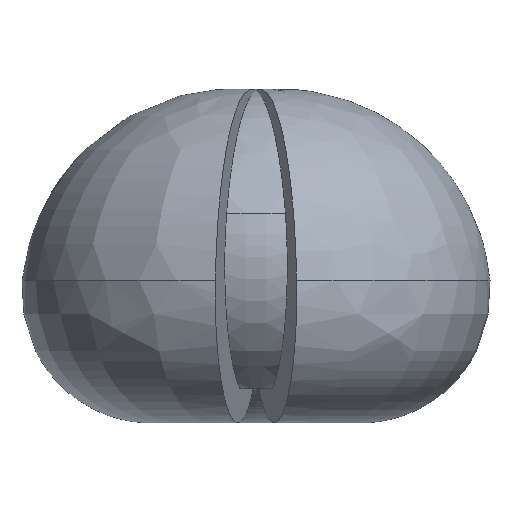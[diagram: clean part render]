
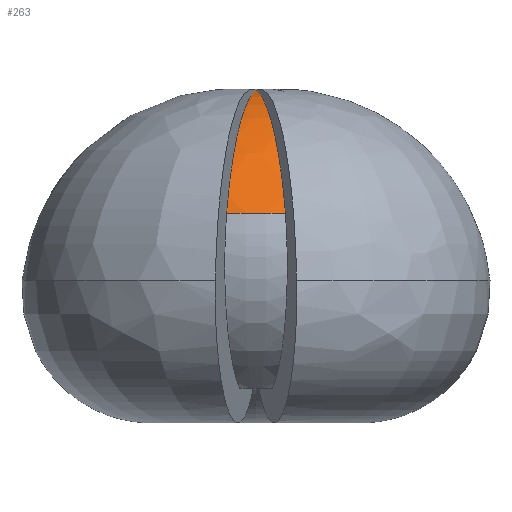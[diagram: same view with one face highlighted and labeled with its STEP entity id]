
A CAD part, left-side view. The second image highlights one B-rep face of the part: STEP entity #263.
In plain terms, the highlighted free-form (B-spline) face has degree [3, 3] with [7, 4] control points.
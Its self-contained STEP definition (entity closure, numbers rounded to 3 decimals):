
#23 = VERTEX_POINT ( 'NONE', #158 ) ;
#56 = CARTESIAN_POINT ( 'NONE',  ( -608.751, -35.416, 3814.844 ) ) ;
#57 = CARTESIAN_POINT ( 'NONE',  ( -1255.392, -221.359, 3530.053 ) ) ;
#73 = CARTESIAN_POINT ( 'NONE',  ( -165.599, -29.2, 3899.58 ) ) ;
#91 = CARTESIAN_POINT ( 'NONE',  ( -2538.082, -147.659, 2085.747 ) ) ;
#99 = EDGE_CURVE ( 'NONE', #981, #1583, #136, .T. ) ;
#136 = B_SPLINE_CURVE_WITH_KNOTS ( 'NONE', 3,
 ( #773, #73, #1271, #57, #908, #1506, #1392 ),
 .UNSPECIFIED., .F., .F.,
 ( 4, 1, 1, 1, 4 ),
 ( 0.605, 0.667, 0.767, 0.867, 1. ),
 .UNSPECIFIED. ) ;
#158 = CARTESIAN_POINT ( 'NONE',  ( -2486.8, 438.49, 2085.747 ) ) ;
#173 = CARTESIAN_POINT ( 'NONE',  ( -1255.392, -221.359, 3530.053 ) ) ;
#180 = CARTESIAN_POINT ( 'NONE',  ( -1255.392, 221.359, 3530.053 ) ) ;
#198 = AXIS2_PLACEMENT_3D ( 'NONE', #441, #203, #1291 ) ;
#202 = CARTESIAN_POINT ( 'NONE',  ( 0., 0., 3918.321 ) ) ;
#203 = DIRECTION ( 'NONE',  ( 0., 0., -1. ) ) ;
#232 = ORIENTED_EDGE ( 'NONE', *, *, #99, .F. ) ;
#263 = ADVANCED_FACE ( 'NONE', ( #1313 ), #387, .T. ) ;
#292 = CARTESIAN_POINT ( 'NONE',  ( -596.452, 105.171, 3814.844 ) ) ;
#314 = CARTESIAN_POINT ( 'NONE',  ( -2486.8, 438.49, 2085.747 ) ) ;
#325 = CARTESIAN_POINT ( 'NONE',  ( -2385.46, -138.78, 2420.611 ) ) ;
#387 =( BOUNDED_SURFACE ( )  B_SPLINE_SURFACE ( 3, 3, ( 
 ( #1548, #91, #1426, #1417 ),
 ( #933, #325, #1188, #573 ),
 ( #814, #824, #1304, #409 ),
 ( #173, #1035, #522, #180 ),
 ( #673, #56, #419, #292 ),
 ( #1529, #537, #545, #1391 ),
 ( #666, #787, #794, #1143 ) ),
 .UNSPECIFIED., .F., .F., .T. ) 
 B_SPLINE_SURFACE_WITH_KNOTS ( ( 4, 1, 1, 1, 4 ),
 ( 4, 4 ),
 ( 0.605, 0.739, 0.839, 0.939, 1. ),
 ( 0., 1. ),
 .UNSPECIFIED. ) 
 GEOMETRIC_REPRESENTATION_ITEM ( )  RATIONAL_B_SPLINE_SURFACE ( (
 ( 1., 0.99, 0.99, 1.),
 ( 1., 0.99, 0.99, 1.),
 ( 1., 0.99, 0.99, 1.),
 ( 1., 0.99, 0.99, 1.),
 ( 1., 0.99, 0.99, 1.),
 ( 1., 0.99, 0.99, 1.),
 ( 1., 0.99, 0.99, 1.) ) ) 
 REPRESENTATION_ITEM ( '' )  SURFACE ( )  );
#409 = CARTESIAN_POINT ( 'NONE',  ( -1974.263, 348.116, 2957.866 ) ) ;
#419 = CARTESIAN_POINT ( 'NONE',  ( -608.751, 35.416, 3814.844 ) ) ;
#441 = CARTESIAN_POINT ( 'NONE',  ( 0., 0., 2085.747 ) ) ;
#522 = CARTESIAN_POINT ( 'NONE',  ( -1281.28, 74.541, 3530.053 ) ) ;
#537 = CARTESIAN_POINT ( 'NONE',  ( -169.014, -9.833, 3899.58 ) ) ;
#544 = CARTESIAN_POINT ( 'NONE',  ( -165.599, 29.2, 3899.58 ) ) ;
#545 = CARTESIAN_POINT ( 'NONE',  ( -169.014, 9.833, 3899.58 ) ) ;
#573 = CARTESIAN_POINT ( 'NONE',  ( -2337.263, 412.122, 2420.611 ) ) ;
#666 = CARTESIAN_POINT ( 'NONE',  ( 0., 0., 3918.321 ) ) ;
#673 = CARTESIAN_POINT ( 'NONE',  ( -596.452, -105.171, 3814.844 ) ) ;
#748 = ORIENTED_EDGE ( 'NONE', *, *, #1254, .F. ) ;
#773 = CARTESIAN_POINT ( 'NONE',  ( 0., 0., 3918.321 ) ) ;
#787 = CARTESIAN_POINT ( 'NONE',  ( 0., 0., 3918.321 ) ) ;
#794 = CARTESIAN_POINT ( 'NONE',  ( 0., 0., 3918.321 ) ) ;
#814 = CARTESIAN_POINT ( 'NONE',  ( -1974.263, -348.116, 2957.866 ) ) ;
#824 = CARTESIAN_POINT ( 'NONE',  ( -2014.975, -117.226, 2957.866 ) ) ;
#886 = CIRCLE ( 'NONE', #198, 2525.163 ) ;
#908 = CARTESIAN_POINT ( 'NONE',  ( -1974.263, -348.116, 2957.866 ) ) ;
#933 = CARTESIAN_POINT ( 'NONE',  ( -2337.263, -412.122, 2420.611 ) ) ;
#981 = VERTEX_POINT ( 'NONE', #202 ) ;
#1034 = CARTESIAN_POINT ( 'NONE',  ( -1255.392, 221.359, 3530.053 ) ) ;
#1035 = CARTESIAN_POINT ( 'NONE',  ( -1281.28, -74.541, 3530.053 ) ) ;
#1105 = EDGE_LOOP ( 'NONE', ( #232, #1499, #748 ) ) ;
#1143 = CARTESIAN_POINT ( 'NONE',  ( 0., 0., 3918.321 ) ) ;
#1150 = CARTESIAN_POINT ( 'NONE',  ( -596.452, 105.171, 3814.844 ) ) ;
#1175 = CARTESIAN_POINT ( 'NONE',  ( -2337.263, 412.122, 2420.611 ) ) ;
#1188 = CARTESIAN_POINT ( 'NONE',  ( -2385.46, 138.78, 2420.611 ) ) ;
#1254 = EDGE_CURVE ( 'NONE', #1583, #23, #886, .T. ) ;
#1271 = CARTESIAN_POINT ( 'NONE',  ( -596.452, -105.171, 3814.844 ) ) ;
#1276 = CARTESIAN_POINT ( 'NONE',  ( 0., 0., 3918.321 ) ) ;
#1291 = DIRECTION ( 'NONE',  ( -1., 0., 0. ) ) ;
#1304 = CARTESIAN_POINT ( 'NONE',  ( -2014.975, 117.226, 2957.866 ) ) ;
#1313 = FACE_OUTER_BOUND ( 'NONE', #1105, .T. ) ;
#1343 = CARTESIAN_POINT ( 'NONE',  ( -2486.8, -438.49, 2085.747 ) ) ;
#1371 = EDGE_CURVE ( 'NONE', #981, #23, #1411, .T. ) ;
#1391 = CARTESIAN_POINT ( 'NONE',  ( -165.599, 29.2, 3899.58 ) ) ;
#1392 = CARTESIAN_POINT ( 'NONE',  ( -2486.8, -438.49, 2085.747 ) ) ;
#1411 = B_SPLINE_CURVE_WITH_KNOTS ( 'NONE', 3,
 ( #1276, #544, #1150, #1034, #1528, #1175, #314 ),
 .UNSPECIFIED., .F., .F.,
 ( 4, 1, 1, 1, 4 ),
 ( 0.605, 0.667, 0.767, 0.867, 1. ),
 .UNSPECIFIED. ) ;
#1417 = CARTESIAN_POINT ( 'NONE',  ( -2486.8, 438.49, 2085.747 ) ) ;
#1426 = CARTESIAN_POINT ( 'NONE',  ( -2538.082, 147.659, 2085.747 ) ) ;
#1499 = ORIENTED_EDGE ( 'NONE', *, *, #1371, .T. ) ;
#1506 = CARTESIAN_POINT ( 'NONE',  ( -2337.263, -412.122, 2420.611 ) ) ;
#1528 = CARTESIAN_POINT ( 'NONE',  ( -1974.263, 348.116, 2957.866 ) ) ;
#1529 = CARTESIAN_POINT ( 'NONE',  ( -165.599, -29.2, 3899.58 ) ) ;
#1548 = CARTESIAN_POINT ( 'NONE',  ( -2486.8, -438.49, 2085.747 ) ) ;
#1583 = VERTEX_POINT ( 'NONE', #1343 ) ;
